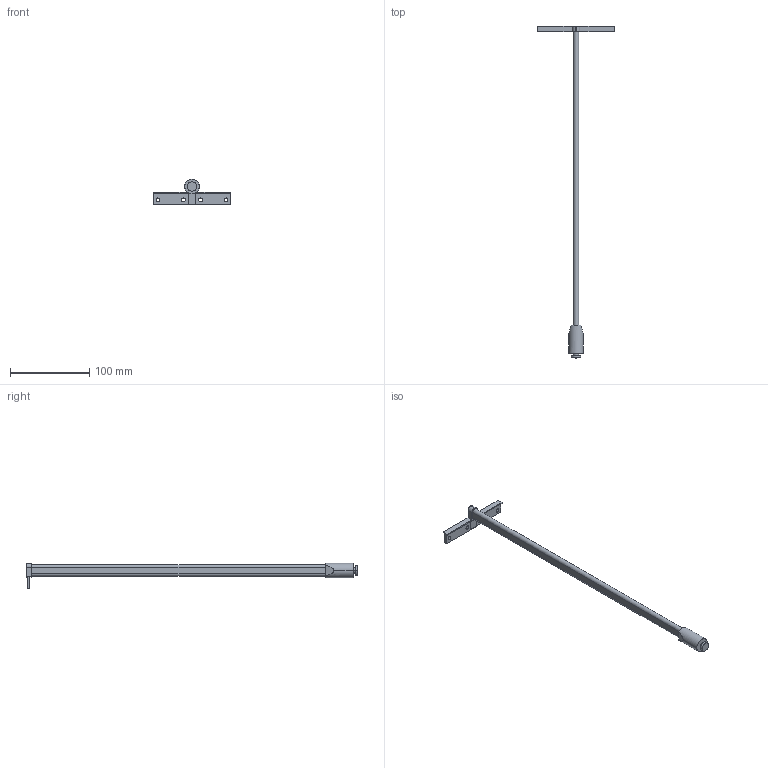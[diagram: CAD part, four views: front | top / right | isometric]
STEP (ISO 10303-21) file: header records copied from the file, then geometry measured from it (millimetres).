
FILE_DESCRIPTION (( 'STEP AP214' ), '1' );
FILE_NAME ('DWD-XP_Reling-Haengeregister_NL425_links.step', '2010-10-06T11:19:40', ( 'grass' ), ( '' ), 'SwSTEP 2.0', 'SolidWorks 2010', '' );
FILE_SCHEMA (( 'AUTOMOTIVE_DESIGN' ));
Length unit declared in the file: millimetre
Products named in the file (1): DWD-XP_Reling-Haengeregister_NL425_links
Bounding box: 97.9 x 419.3 x 32.15 mm (x, y, z)
Volume: 96474.2 mm3; surface area: 39568.2 mm2
Topology: 2 solids, 2 shells, 68 faces, 168 edges, 112 vertices
Faces by surface type: plane 40, cylinder 28
Entity records: 2087 total; most frequent: CARTESIAN_POINT 373, DIRECTION 354, ORIENTED_EDGE 336, EDGE_CURVE 168, AXIS2_PLACEMENT_3D 125, VERTEX_POINT 112, LINE 104, VECTOR 104
